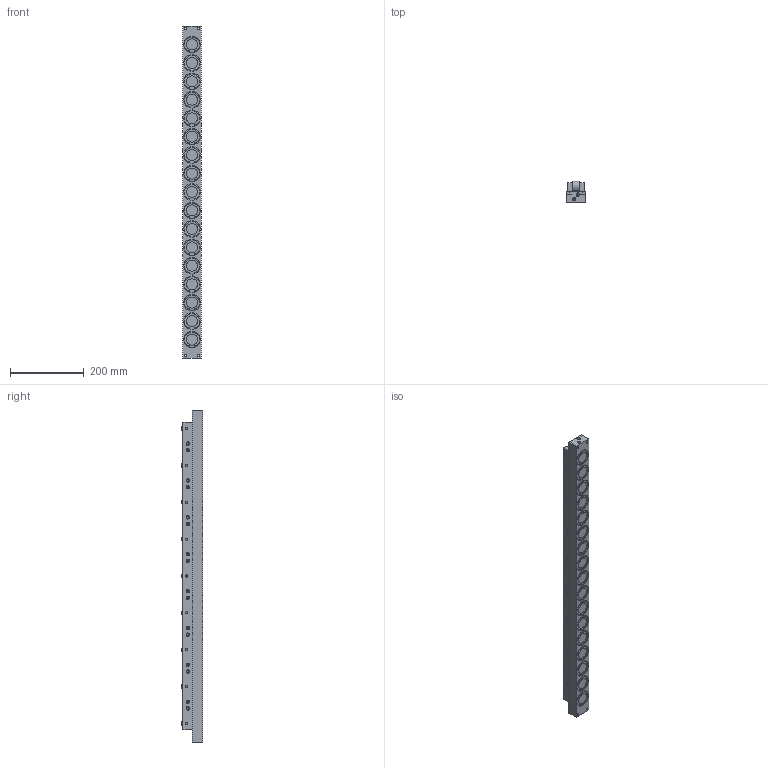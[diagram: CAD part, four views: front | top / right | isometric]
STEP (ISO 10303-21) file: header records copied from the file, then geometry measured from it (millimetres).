
FILE_DESCRIPTION (( 'STEP AP203' ), '1' );
FILE_NAME ('PVLR55SL-9.STEP', '2021-10-14T02:32:26', ( '' ), ( '' ), 'SwSTEP 2.0', 'SolidWorks 2013', '' );
FILE_SCHEMA (( 'CONFIG_CONTROL_DESIGN' ));
Length unit declared in the file: millimetre
Products named in the file (1): PVLR55SL-9
Bounding box: 49 x 57 x 900 mm (x, y, z)
Volume: 1862111.8 mm3; surface area: 356932 mm2
Topology: 2 solids, 2 shells, 1213 faces, 2989 edges, 1944 vertices
Faces by surface type: plane 645, cylinder 560, cone 8
Entity records: 36396 total; most frequent: DIRECTION 6711, CARTESIAN_POINT 6143, ORIENTED_EDGE 5970, EDGE_CURVE 2985, AXIS2_PLACEMENT_3D 2512, VERTEX_POINT 1944, VECTOR 1687, LINE 1687
